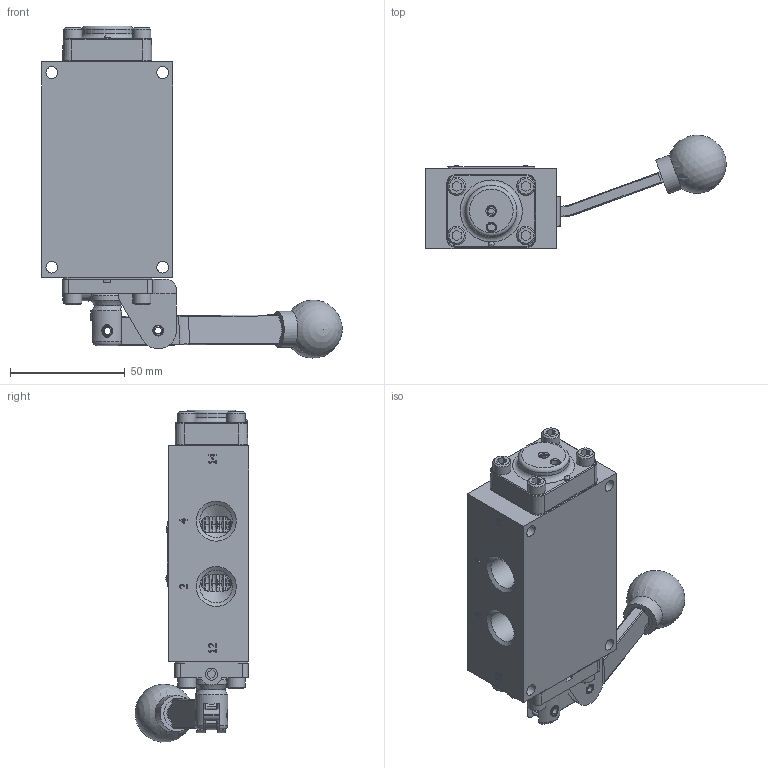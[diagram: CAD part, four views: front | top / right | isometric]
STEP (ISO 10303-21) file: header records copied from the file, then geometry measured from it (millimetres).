
FILE_DESCRIPTION(/* description */ (''),/* implementation_level */ '2;1');
FILE_NAME(/* name */ 'HX3BRRT.stp',/* time_stamp */ '2025-02-07T10:59:07-05:00',/* author */ ('rmckenna'),/* organization */ (''),/* preprocessor_version */ 'ST-DEVELOPER v20',/* originating_system */ 'Autodesk Inventor 2024',/* authorisation */ '');
FILE_SCHEMA (('AUTOMOTIVE_DESIGN { 1 0 10303 214 3 1 1 }'));
Length unit declared in the file: centimetre
Products named in the file (1): Part10
Bounding box: 131.09 x 49.68 x 144.9 mm (x, y, z)
Volume: 197855.1 mm3; surface area: 63213.4 mm2
Topology: 3 solids, 30 shells, 1265 faces, 3105 edges, 1979 vertices
Faces by surface type: plane 558, cone 263, cylinder 233, bspline 108, torus 98, sphere 5
Full cylindrical faces by diameter (mm): 2.07 x2, 2.261 x2, 2.778 x2, 3.175 x2, 3.618 x1, 3.683 x12, 3.912 x3, 4.75 x2, 4.763 x2, 4.826 x8, 4.978 x4, 5.055 x1, 5.156 x12, 5.283 x2, 7.798 x1, 7.938 x8, 9.525 x1, 9.728 x1, 9.855 x1, 11.113 x2, 11.303 x3, 12.141 x2, 14.275 x2, 14.287 x5, 14.986 x1, 15.748 x1, 18.618 x1, 18.745 x12, 19.177 x2, 22.327 x1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
Entity records: 43049 total; most frequent: CARTESIAN_POINT 12412, ORIENTED_EDGE 6168, DIRECTION 5805, EDGE_CURVE 3084, AXIS2_PLACEMENT_3D 2106, VERTEX_POINT 1979, LINE 1593, VECTOR 1593
